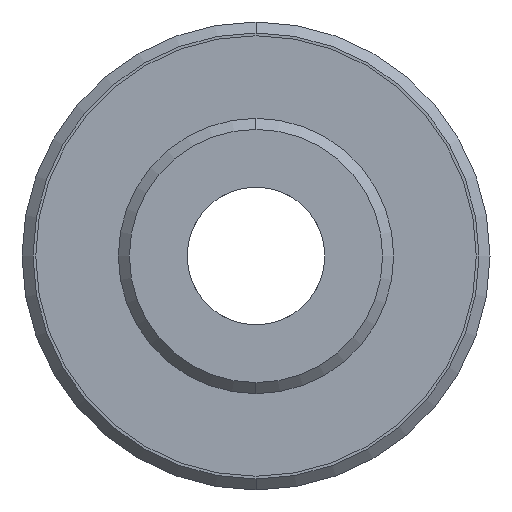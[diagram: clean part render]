
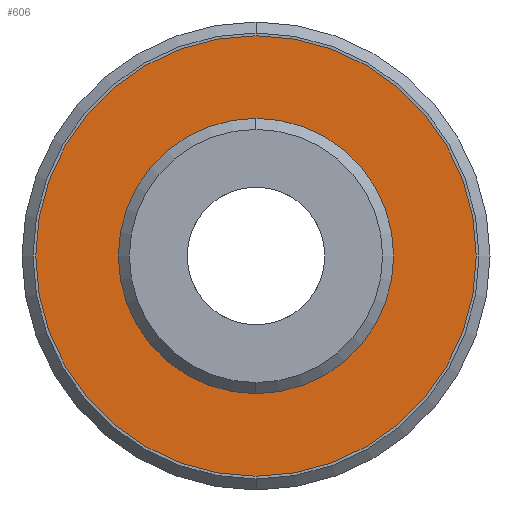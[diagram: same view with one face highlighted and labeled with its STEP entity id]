
A CAD part, left-side view. The second image highlights one B-rep face of the part: STEP entity #606.
In plain terms, the highlighted planar face has unit normal (-1, 0, 0).
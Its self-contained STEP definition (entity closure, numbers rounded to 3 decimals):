
#16 = CIRCLE ( 'NONE', #481, 4. ) ;
#19 = CIRCLE ( 'NONE', #622, 2.5 ) ;
#24 = AXIS2_PLACEMENT_3D ( 'NONE', #1119, #26, #199 ) ;
#26 = DIRECTION ( 'NONE',  ( -1., 0., 0. ) ) ;
#49 = DIRECTION ( 'NONE',  ( -1., 0., 0. ) ) ;
#57 = EDGE_LOOP ( 'NONE', ( #395, #573 ) ) ;
#113 = PLANE ( 'NONE',  #24 ) ;
#146 = EDGE_CURVE ( 'NONE', #745, #720, #661, .T. ) ;
#182 = CARTESIAN_POINT ( 'NONE',  ( -45.74, 86.092, 2.5 ) ) ;
#197 = DIRECTION ( 'NONE',  ( 0., 0., 1. ) ) ;
#199 = DIRECTION ( 'NONE',  ( 0., 0., 1. ) ) ;
#236 = DIRECTION ( 'NONE',  ( -1., 0., 0. ) ) ;
#299 = CARTESIAN_POINT ( 'NONE',  ( -45.74, 86.092, 0. ) ) ;
#364 = CARTESIAN_POINT ( 'NONE',  ( -45.74, 86.092, -2.5 ) ) ;
#395 = ORIENTED_EDGE ( 'NONE', *, *, #146, .T. ) ;
#401 = EDGE_LOOP ( 'NONE', ( #837, #766 ) ) ;
#470 = VERTEX_POINT ( 'NONE', #364 ) ;
#481 = AXIS2_PLACEMENT_3D ( 'NONE', #299, #848, #940 ) ;
#573 = ORIENTED_EDGE ( 'NONE', *, *, #734, .T. ) ;
#594 = EDGE_CURVE ( 'NONE', #470, #1174, #19, .T. ) ;
#606 = ADVANCED_FACE ( 'NONE', ( #660, #916 ), #113, .T. ) ;
#622 = AXIS2_PLACEMENT_3D ( 'NONE', #1015, #934, #197 ) ;
#660 = FACE_OUTER_BOUND ( 'NONE', #57, .T. ) ;
#661 = CIRCLE ( 'NONE', #924, 4. ) ;
#676 = CIRCLE ( 'NONE', #857, 2.5 ) ;
#679 = CARTESIAN_POINT ( 'NONE',  ( -45.74, 86.092, 0. ) ) ;
#713 = EDGE_CURVE ( 'NONE', #1174, #470, #676, .T. ) ;
#720 = VERTEX_POINT ( 'NONE', #1127 ) ;
#734 = EDGE_CURVE ( 'NONE', #720, #745, #16, .T. ) ;
#745 = VERTEX_POINT ( 'NONE', #778 ) ;
#766 = ORIENTED_EDGE ( 'NONE', *, *, #713, .F. ) ;
#778 = CARTESIAN_POINT ( 'NONE',  ( -45.74, 86.092, -4. ) ) ;
#787 = DIRECTION ( 'NONE',  ( 0., 0., 1. ) ) ;
#837 = ORIENTED_EDGE ( 'NONE', *, *, #594, .F. ) ;
#848 = DIRECTION ( 'NONE',  ( -1., 0., 0. ) ) ;
#852 = DIRECTION ( 'NONE',  ( 0., 0., 1. ) ) ;
#857 = AXIS2_PLACEMENT_3D ( 'NONE', #679, #49, #852 ) ;
#916 = FACE_BOUND ( 'NONE', #401, .T. ) ;
#924 = AXIS2_PLACEMENT_3D ( 'NONE', #1049, #236, #787 ) ;
#934 = DIRECTION ( 'NONE',  ( -1., 0., 0. ) ) ;
#940 = DIRECTION ( 'NONE',  ( 0., 0., 1. ) ) ;
#1015 = CARTESIAN_POINT ( 'NONE',  ( -45.74, 86.092, 0. ) ) ;
#1049 = CARTESIAN_POINT ( 'NONE',  ( -45.74, 86.092, 0. ) ) ;
#1119 = CARTESIAN_POINT ( 'NONE',  ( -45.74, 86.092, 0. ) ) ;
#1127 = CARTESIAN_POINT ( 'NONE',  ( -45.74, 86.092, 4. ) ) ;
#1174 = VERTEX_POINT ( 'NONE', #182 ) ;
